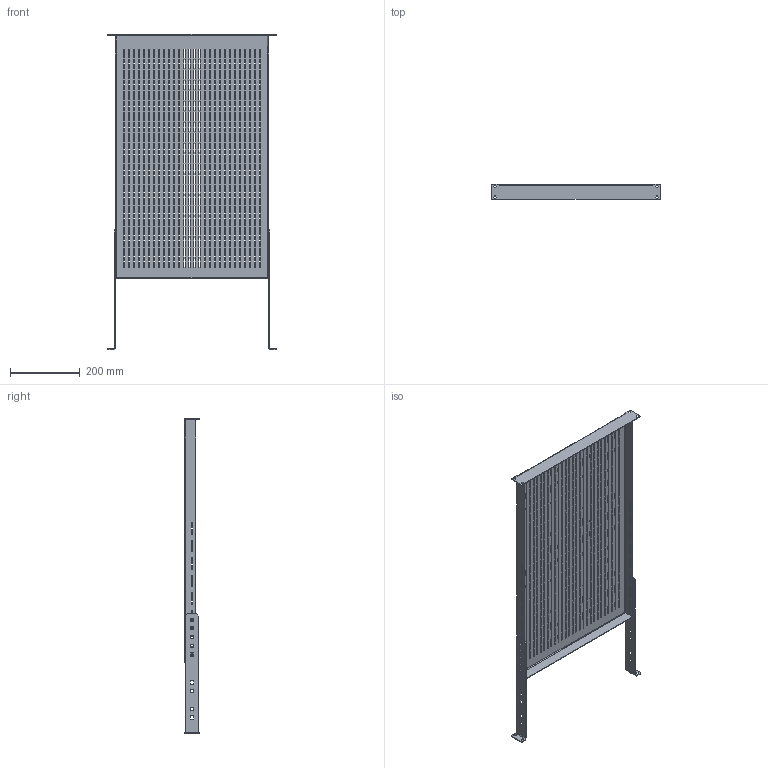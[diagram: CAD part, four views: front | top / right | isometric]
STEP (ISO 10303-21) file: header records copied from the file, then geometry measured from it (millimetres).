
FILE_DESCRIPTION((''),'2;1');
FILE_NAME('D:\scratch\ideas\p19vsh810b.stp','2006-12-08T11:02:40',( 'User'),('SDRC'),'I-DEAS Master Series 9','UNIX','Yes');
FILE_SCHEMA(('AUTOMOTIVE_DESIGN { 1 0 10303 214 0 1 1 1 }'));
Length unit declared in the file: inch
Products named in the file (3): 11054; shelf_1u_19x800_vented; 87747023
Assembly tree (3 placements, depth 2):
  11054
    shelf_1u_19x800_vented
    87747023  x2
Bounding box: 482.6 x 43.66 x 902.67 mm (x, y, z)
Volume: 664171.8 mm3; surface area: 783403.4 mm2
Topology: 3 solids, 3 shells, 2620 faces, 7795 edges, 5182 vertices
Faces by surface type: bspline 2620
Entity records: 79247 total; most frequent: CARTESIAN_POINT 31084, ORIENTED_EDGE 15208, EDGE_CURVE 7604, VERTEX_POINT 5056, QUASI_UNIFORM_CURVE 5005, EDGE_LOOP 3790, FACE_OUTER_BOUND 2552, ADVANCED_FACE 2552
